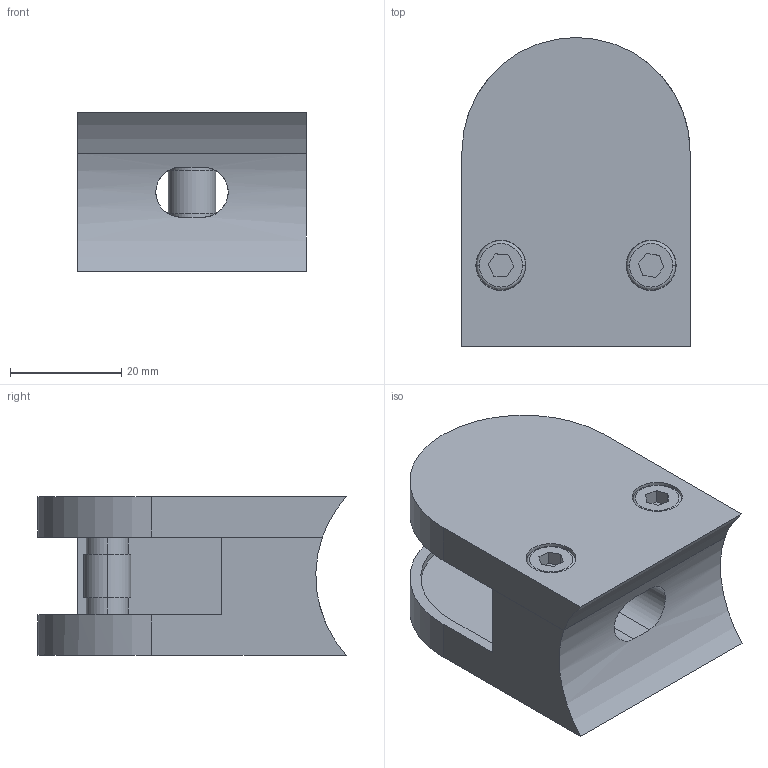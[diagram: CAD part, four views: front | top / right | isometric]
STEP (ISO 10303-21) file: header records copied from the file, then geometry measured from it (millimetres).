
FILE_DESCRIPTION (( 'STEP AP203' ), '1' );
FILE_NAME ('3D_GG4002_G 42.4_188758210.STEP', '2024-11-01T11:08:23', ( '' ), ( '' ), 'SwSTEP 2.0', 'SolidWorks 2023', '' );
FILE_SCHEMA (( 'CONFIG_CONTROL_DESIGN' ));
Length unit declared in the file: millimetre
Products named in the file (1): 3D_GG4002_G 42.4_188758210
Bounding box: 41 x 55.5 x 28.5 mm (x, y, z)
Volume: 37152 mm3; surface area: 16330.6 mm2
Topology: 5 solids, 5 shells, 99 faces, 217 edges, 142 vertices
Faces by surface type: plane 51, cylinder 40, torus 4, cone 4
Entity records: 2881 total; most frequent: CARTESIAN_POINT 525, DIRECTION 506, ORIENTED_EDGE 434, EDGE_CURVE 217, AXIS2_PLACEMENT_3D 191, VERTEX_POINT 142, VECTOR 124, LINE 124
